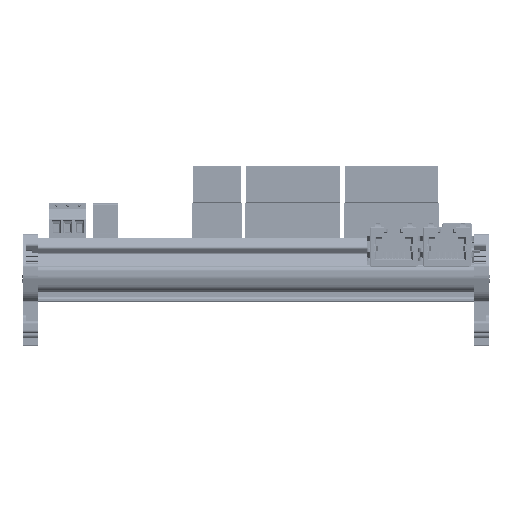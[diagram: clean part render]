
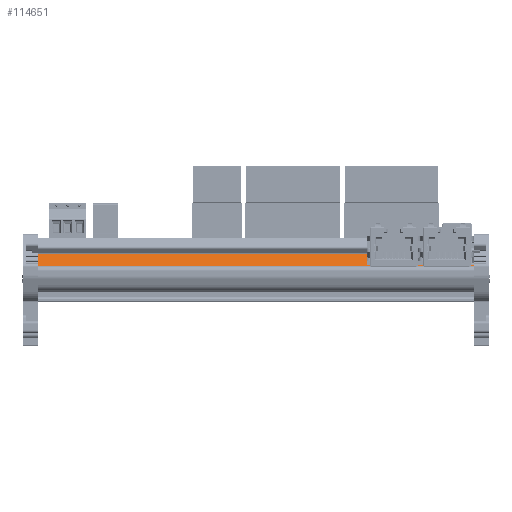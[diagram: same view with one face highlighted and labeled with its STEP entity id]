
A CAD part, front view. The second image highlights one B-rep face of the part: STEP entity #114651.
In plain terms, the highlighted planar face has unit normal (0, -0.866, 0.5).
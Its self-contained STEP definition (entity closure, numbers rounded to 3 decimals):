
#5560=PLANE('',#121356);
#10171=FACE_OUTER_BOUND('',#16470,.T.);
#16470=EDGE_LOOP('',(#80317,#80318,#80319,#80320,#80321,#80322));
#23502=LINE('',#162792,#36347);
#23744=LINE('',#163481,#36589);
#23745=LINE('',#163486,#36590);
#23746=LINE('',#163487,#36591);
#23747=LINE('',#163488,#36592);
#23748=LINE('',#163489,#36593);
#36347=VECTOR('',#130772,1000.);
#36589=VECTOR('',#131454,1000.);
#36590=VECTOR('',#131459,1000.);
#36591=VECTOR('',#131460,1000.);
#36592=VECTOR('',#131461,1000.);
#36593=VECTOR('',#131462,1000.);
#52397=VERTEX_POINT('',#162789);
#52398=VERTEX_POINT('',#162791);
#52624=VERTEX_POINT('',#163478);
#52625=VERTEX_POINT('',#163480);
#52626=VERTEX_POINT('',#163484);
#52627=VERTEX_POINT('',#163485);
#63204=EDGE_CURVE('',#52397,#52398,#23502,.T.);
#63550=EDGE_CURVE('',#52625,#52624,#23744,.T.);
#63552=EDGE_CURVE('',#52626,#52627,#23745,.T.);
#63553=EDGE_CURVE('',#52626,#52398,#23746,.T.);
#63554=EDGE_CURVE('',#52397,#52625,#23747,.T.);
#63555=EDGE_CURVE('',#52627,#52624,#23748,.T.);
#80317=ORIENTED_EDGE('',*,*,#63552,.F.);
#80318=ORIENTED_EDGE('',*,*,#63553,.T.);
#80319=ORIENTED_EDGE('',*,*,#63204,.F.);
#80320=ORIENTED_EDGE('',*,*,#63554,.T.);
#80321=ORIENTED_EDGE('',*,*,#63550,.T.);
#80322=ORIENTED_EDGE('',*,*,#63555,.F.);
#114651=ADVANCED_FACE('',(#10171),#5560,.T.);
#121356=AXIS2_PLACEMENT_3D('',#163483,#131457,#131458);
#130772=DIRECTION('',(1.,0.,0.));
#131454=DIRECTION('',(1.,0.,0.));
#131457=DIRECTION('center_axis',(0.,-0.866,
0.5));
#131458=DIRECTION('ref_axis',(0.,0.5,0.866));
#131459=DIRECTION('',(1.,0.,0.));
#131460=DIRECTION('',(0.,0.5,0.866));
#131461=DIRECTION('',(0.,-0.5,-0.866));
#131462=DIRECTION('',(0.,-0.5,-0.866));
#162789=CARTESIAN_POINT('',(3.,6.809,25.476));
#162791=CARTESIAN_POINT('',(115.3,6.809,25.476));
#162792=CARTESIAN_POINT('',(3.,6.809,25.476));
#163478=CARTESIAN_POINT('',(153.,3.834,20.324));
#163480=CARTESIAN_POINT('',(3.,3.834,20.324));
#163481=CARTESIAN_POINT('',(3.,3.834,20.324));
#163483=CARTESIAN_POINT('Origin',(3.,6.809,25.476));
#163484=CARTESIAN_POINT('',(115.3,4.744,21.9));
#163485=CARTESIAN_POINT('',(153.,4.744,21.9));
#163486=CARTESIAN_POINT('',(3.,4.744,21.9));
#163487=CARTESIAN_POINT('',(115.3,6.809,25.476));
#163488=CARTESIAN_POINT('',(3.,6.809,25.476));
#163489=CARTESIAN_POINT('',(153.,6.809,25.476));
